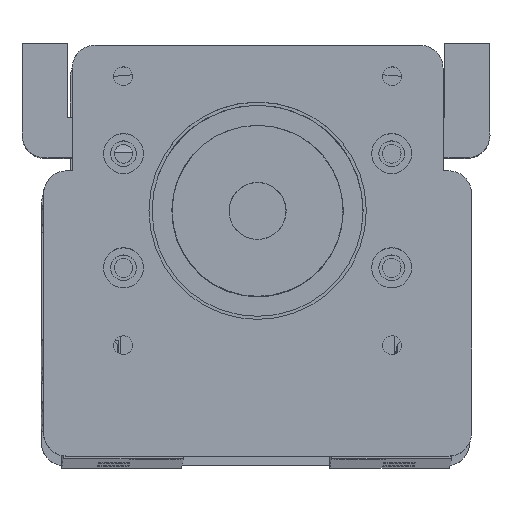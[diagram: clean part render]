
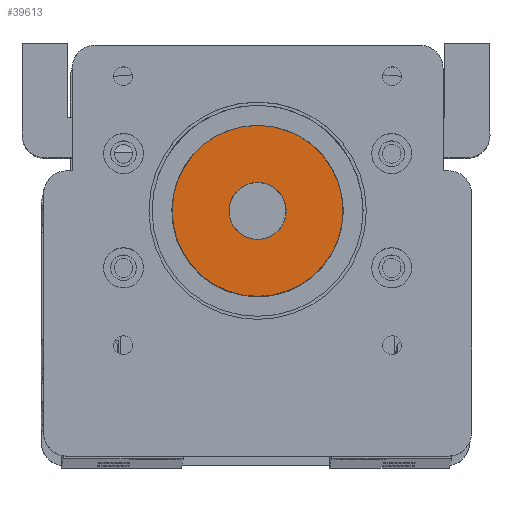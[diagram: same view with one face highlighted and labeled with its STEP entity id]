
A CAD part, top view. The second image highlights one B-rep face of the part: STEP entity #39613.
In plain terms, the highlighted planar face has unit normal (0, 0, 1).
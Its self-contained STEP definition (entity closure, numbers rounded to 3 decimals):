
#1985 = DIRECTION ( 'NONE',  ( 0., 0., 1. ) ) ;
#2278 = ORIENTED_EDGE ( 'NONE', *, *, #2635, .F. ) ;
#2307 = FACE_OUTER_BOUND ( 'NONE', #12217, .T. ) ;
#2635 = EDGE_CURVE ( 'NONE', #11906, #21011, #21281, .T. ) ;
#2723 = CARTESIAN_POINT ( 'NONE',  ( -6.16, 0., 40.753 ) ) ;
#3159 = DIRECTION ( 'NONE',  ( 0., 0., 1. ) ) ;
#3286 = EDGE_CURVE ( 'NONE', #49815, #37444, #43838, .T. ) ;
#4924 = EDGE_CURVE ( 'NONE', #37444, #49815, #9137, .T. ) ;
#7013 = DIRECTION ( 'NONE',  ( 1., 0., 0. ) ) ;
#9137 = CIRCLE ( 'NONE', #49212, 14.978 ) ;
#10343 = CARTESIAN_POINT ( 'NONE',  ( -6.16, 0., 40.753 ) ) ;
#11906 = VERTEX_POINT ( 'NONE', #18232 ) ;
#12217 = EDGE_LOOP ( 'NONE', ( #17997, #46063 ) ) ;
#14043 = EDGE_CURVE ( 'NONE', #21011, #11906, #46207, .T. ) ;
#14594 = AXIS2_PLACEMENT_3D ( 'NONE', #2723, #32471, #7013 ) ;
#15227 = CARTESIAN_POINT ( 'NONE',  ( -6.16, 0., 40.753 ) ) ;
#17997 = ORIENTED_EDGE ( 'NONE', *, *, #3286, .T. ) ;
#18232 = CARTESIAN_POINT ( 'NONE',  ( -11.163, 0., 40.753 ) ) ;
#18880 = PLANE ( 'NONE',  #49611 ) ;
#19488 = DIRECTION ( 'NONE',  ( 1., 0., 0. ) ) ;
#20605 = AXIS2_PLACEMENT_3D ( 'NONE', #15227, #44972, #19488 ) ;
#21011 = VERTEX_POINT ( 'NONE', #40358 ) ;
#21281 = CIRCLE ( 'NONE', #20605, 5.003 ) ;
#22953 = CARTESIAN_POINT ( 'NONE',  ( -6.16, 0., 40.753 ) ) ;
#23126 = EDGE_LOOP ( 'NONE', ( #2278, #42208 ) ) ;
#27245 = DIRECTION ( 'NONE',  ( 1., 0., 0. ) ) ;
#28612 = CARTESIAN_POINT ( 'NONE',  ( -6.16, 0., 40.753 ) ) ;
#31725 = DIRECTION ( 'NONE',  ( 1., 0., 0. ) ) ;
#32471 = DIRECTION ( 'NONE',  ( 0., 0., 1. ) ) ;
#32913 = DIRECTION ( 'NONE',  ( 1., 0., 0. ) ) ;
#32972 = CARTESIAN_POINT ( 'NONE',  ( 8.817, 0., 40.753 ) ) ;
#34914 = FACE_BOUND ( 'NONE', #23126, .T. ) ;
#37444 = VERTEX_POINT ( 'NONE', #32972 ) ;
#38898 = AXIS2_PLACEMENT_3D ( 'NONE', #22953, #52714, #27245 ) ;
#39613 = ADVANCED_FACE ( 'NONE', ( #2307, #34914 ), #18880, .T. ) ;
#40358 = CARTESIAN_POINT ( 'NONE',  ( -1.157, 0., 40.753 ) ) ;
#42208 = ORIENTED_EDGE ( 'NONE', *, *, #14043, .F. ) ;
#43838 = CIRCLE ( 'NONE', #14594, 14.978 ) ;
#44972 = DIRECTION ( 'NONE',  ( 0., 0., 1. ) ) ;
#46063 = ORIENTED_EDGE ( 'NONE', *, *, #4924, .T. ) ;
#46207 = CIRCLE ( 'NONE', #38898, 5.003 ) ;
#49212 = AXIS2_PLACEMENT_3D ( 'NONE', #28612, #3159, #32913 ) ;
#49611 = AXIS2_PLACEMENT_3D ( 'NONE', #10343, #1985, #31725 ) ;
#49815 = VERTEX_POINT ( 'NONE', #54382 ) ;
#52714 = DIRECTION ( 'NONE',  ( 0., 0., 1. ) ) ;
#54382 = CARTESIAN_POINT ( 'NONE',  ( -21.138, 0., 40.753 ) ) ;
